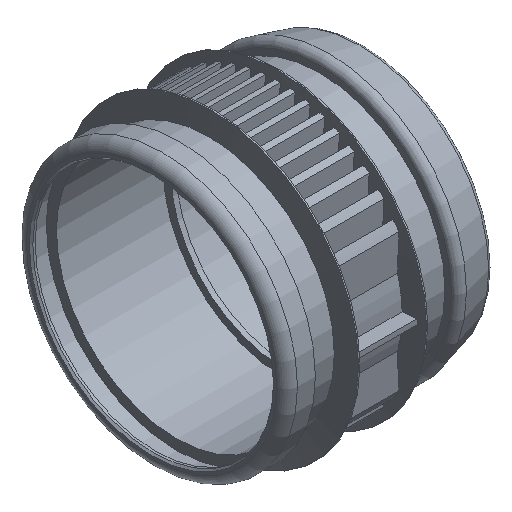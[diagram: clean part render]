
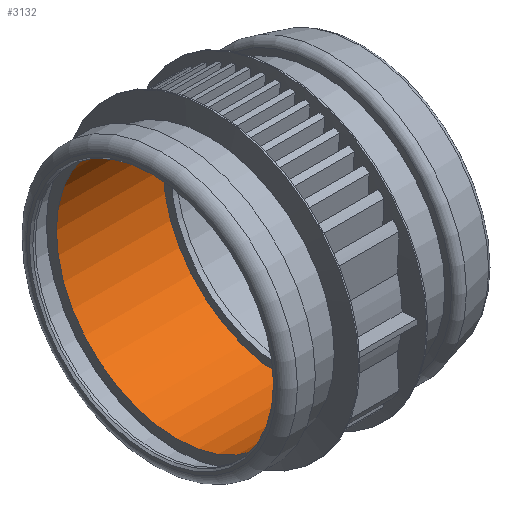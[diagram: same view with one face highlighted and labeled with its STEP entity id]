
A CAD part, isometric view. The second image highlights one B-rep face of the part: STEP entity #3132.
In plain terms, the highlighted cylindrical face has radius 69.15 mm (diameter 138.3 mm), a full revolution.
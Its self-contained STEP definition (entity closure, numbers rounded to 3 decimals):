
#249=FACE_BOUND($,#494,.T.);
#320=FACE_OUTER_BOUND($,#493,.T.);
#493=EDGE_LOOP($,(#2054));
#494=EDGE_LOOP($,(#2055));
#737=CIRCLE($,#3384,69.15);
#738=CIRCLE($,#3385,69.15);
#1272=VERTEX_POINT($,#4800);
#1273=VERTEX_POINT($,#4802);
#1591=EDGE_CURVE($,#1272,#1272,#737,.T.);
#1592=EDGE_CURVE($,#1273,#1273,#738,.T.);
#2054=ORIENTED_EDGE($,*,*,#1591,.F.);
#2055=ORIENTED_EDGE($,*,*,#1592,.T.);
#2872=CYLINDRICAL_SURFACE($,#3383,69.15);
#3132=ADVANCED_FACE($,(#320,#249),#2872,.F.);
#3383=AXIS2_PLACEMENT_3D($,#4799,#3916,#3917);
#3384=AXIS2_PLACEMENT_3D($,#4801,#3918,#3919);
#3385=AXIS2_PLACEMENT_3D($,#4803,#3920,#3921);
#3916=DIRECTION('center_axis',(1.,0.,0.));
#3917=DIRECTION('ref_axis',(0.,1.,0.));
#3918=DIRECTION('center_axis',(1.,0.,0.));
#3919=DIRECTION('ref_axis',(0.,1.,0.));
#3920=DIRECTION('center_axis',(1.,0.,0.));
#3921=DIRECTION('ref_axis',(0.,1.,0.));
#4799=CARTESIAN_POINT('Origin',(45.245,0.,0.));
#4800=CARTESIAN_POINT('',(14.53,69.15,0.));
#4801=CARTESIAN_POINT('Origin',(14.53,0.,0.));
#4802=CARTESIAN_POINT('',(75.96,69.15,0.));
#4803=CARTESIAN_POINT('Origin',(75.96,0.,0.));
